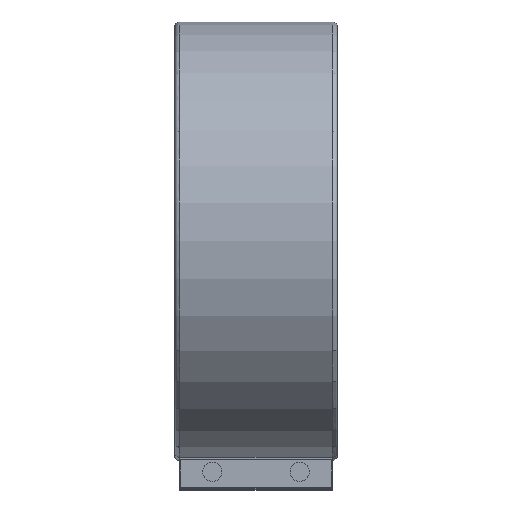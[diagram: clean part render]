
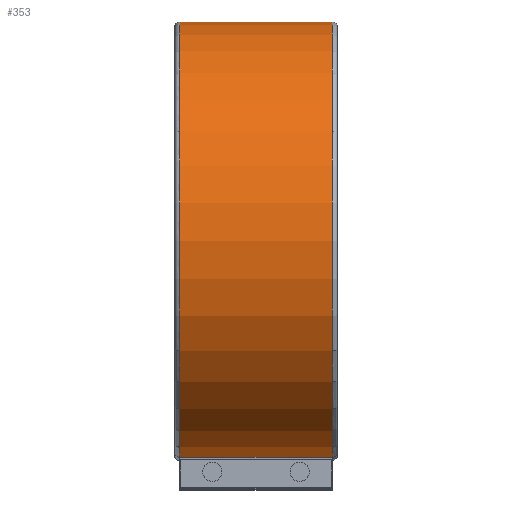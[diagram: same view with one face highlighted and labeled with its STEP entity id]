
A CAD part, top view. The second image highlights one B-rep face of the part: STEP entity #353.
In plain terms, the highlighted cylindrical face has radius 91.5 mm (diameter 183 mm), a partial arc.
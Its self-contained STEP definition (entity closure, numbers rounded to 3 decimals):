
#353 = ADVANCED_FACE( '', ( #758 ), #759, .T. );
#758 = FACE_OUTER_BOUND( '', #1171, .T. );
#759 = CYLINDRICAL_SURFACE( '', #1172, 91.5 );
#1171 = EDGE_LOOP( '', ( #2127, #2128, #2129, #2130 ) );
#1172 = AXIS2_PLACEMENT_3D( '', #2131, #2132, #2133 );
#2127 = ORIENTED_EDGE( '', *, *, #2248, .T. );
#2128 = ORIENTED_EDGE( '', *, *, #2558, .T. );
#2129 = ORIENTED_EDGE( '', *, *, #2298, .F. );
#2130 = ORIENTED_EDGE( '', *, *, #2234, .T. );
#2131 = CARTESIAN_POINT( '', ( 34., 0., 0. ) );
#2132 = DIRECTION( '', ( -1., 0., 0. ) );
#2133 = DIRECTION( '', ( 0., 0., -1. ) );
#2234 = EDGE_CURVE( '', #2625, #2626, #2627, .F. );
#2248 = EDGE_CURVE( '', #2626, #2650, #2651, .T. );
#2298 = EDGE_CURVE( '', #2625, #2735, #2736, .T. );
#2558 = EDGE_CURVE( '', #2650, #2735, #3127, .T. );
#2625 = VERTEX_POINT( '', #3200 );
#2626 = VERTEX_POINT( '', #3201 );
#2627 = LINE( '', #3202, #3203 );
#2650 = VERTEX_POINT( '', #3229 );
#2651 = CIRCLE( '', #3230, 91.5 );
#2735 = VERTEX_POINT( '', #3347 );
#2736 = CIRCLE( '', #3348, 91.5 );
#3127 = LINE( '', #3974, #3975 );
#3200 = CARTESIAN_POINT( '', ( 31.804, -90.134, -15.75 ) );
#3201 = CARTESIAN_POINT( '', ( -31.804, -90.134, -15.75 ) );
#3202 = CARTESIAN_POINT( '', ( 34., -90.134, -15.75 ) );
#3203 = VECTOR( '', #4054, 1000. );
#3229 = CARTESIAN_POINT( '', ( -31.804, -90.134, 15.75 ) );
#3230 = AXIS2_PLACEMENT_3D( '', #4079, #4080, #4081 );
#3347 = CARTESIAN_POINT( '', ( 31.804, -90.134, 15.75 ) );
#3348 = AXIS2_PLACEMENT_3D( '', #4142, #4143, #4144 );
#3974 = CARTESIAN_POINT( '', ( 34., -90.134, 15.75 ) );
#3975 = VECTOR( '', #4398, 1000. );
#4054 = DIRECTION( '', ( 1., 0., 0. ) );
#4079 = CARTESIAN_POINT( '', ( -31.804, 0., 0. ) );
#4080 = DIRECTION( '', ( 1., 0., 0. ) );
#4081 = DIRECTION( '', ( 0., 0., -1. ) );
#4142 = CARTESIAN_POINT( '', ( 31.804, 0., 0. ) );
#4143 = DIRECTION( '', ( 1., 0., 0. ) );
#4144 = DIRECTION( '', ( 0., 0., -1. ) );
#4398 = DIRECTION( '', ( 1., 0., 0. ) );
